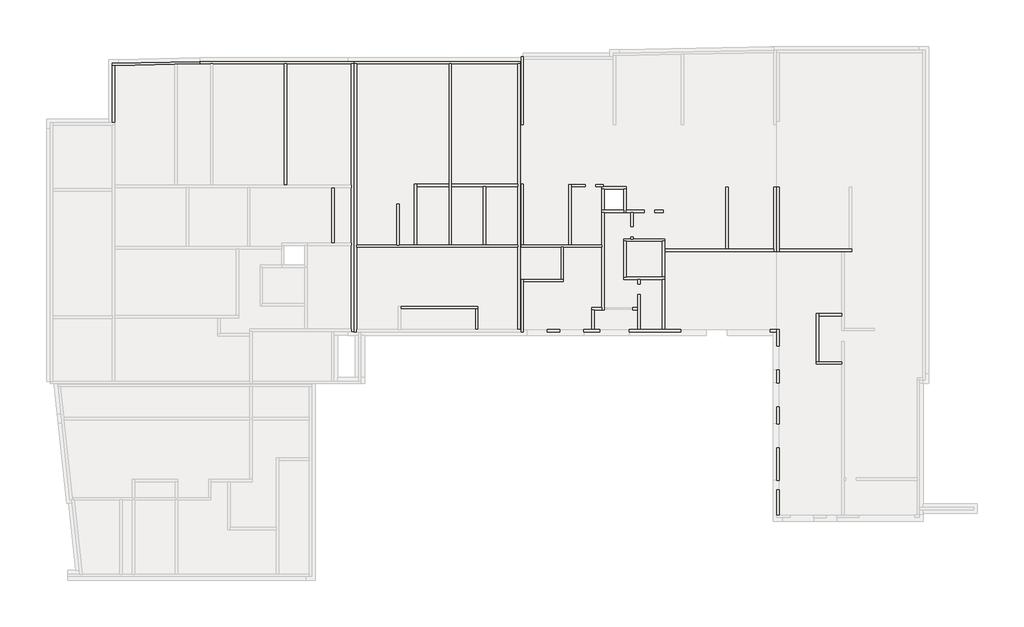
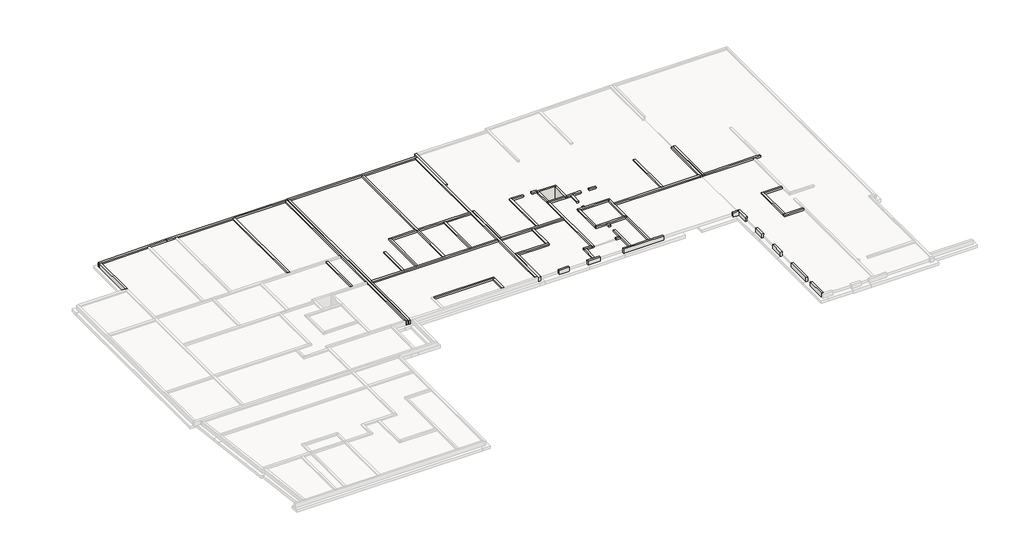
# One storey, part 2 of 5: 62 walls.
"""IFC4 building model written with IfcOpenShell, lengths in millimetres."""

from ifc_helpers import new_model, si_unit, frame, origin, place, context, project, spatial, polyline, outline, extrude, faceted_brep, element, save

model = new_model("IFC4")

# Units and contexts
model_context = context("Model", 3, world=origin())
ifc_project = project(units=[si_unit("LENGTHUNIT", "METRE", prefix="MILLI")], contexts=[model_context])

# Site, building, storey
site = spatial("IfcSite", under=ifc_project)
building = spatial("IfcBuilding", under=site)
storey = spatial("IfcBuildingStorey", under=building, Name="Base Mur soubassement", Elevation=-480.0)

# Walls
placement = place(None, origin())
element("IfcWall", 1, ObjectType="Ext. Voile BA 20", at=placement, inside=storey, context=model_context, shape_type="SweptSolid", body=[
    extrude(outline(polyline([(47687.6540405, 18465.2923443), (47687.6540405, 18865.2786309), (47887.6540405, 18865.2786309), (47887.6540405, 18465.2923443), (47687.6540405, 18465.2923443)])), frame((0.0, 0.0, -480.0), z_axis=(0.0, 0.0, 1.0), x_axis=(1.0, 0.0, 0.0)), (0.0, 0.0, 1.0), 480.0),
])
element("IfcWall", 2, ObjectType="Ext. Voile BA 20", at=placement, inside=storey, context=model_context, shape_type="Brep", body=[
    faceted_brep([(38068.6597873, 18684.2379364, -480.0), (41428.6220947, 18684.2379364, -480.0), (41428.6220947, 18684.2379364, 0.0), (38068.6597873, 18684.2379364, 0.0), (38068.6597873, 18884.2379364, -480.0), (38068.6597873, 18884.2379364, 0.0), (41228.6220947, 18884.2379364, 0.0), (41428.6220947, 18884.2379364, 0.0), (41428.6220947, 18884.2379364, -480.0), (41228.6220947, 18884.2379364, -480.0)], [[[0, 1, 2, 3]], [[4, 5, 6, 7, 8, 9]], [[1, 0, 4, 9, 8]], [[3, 2, 7, 6, 5]], [[0, 3, 5, 4]], [[2, 1, 8, 7]]]),
])
element("IfcWall", 3, ObjectType="Ext. Voile BA 20", at=placement, inside=storey, context=model_context, shape_type="SweptSolid", body=[
    extrude(outline(polyline([(47287.0291518, 22428.2705469), (47287.0291518, 22282.4542325), (47087.0291518, 22282.4542325), (47087.0291518, 22428.2705469), (47287.0291518, 22428.2705469)])), frame((0.0, 0.0, -480.0), z_axis=(0.0, 0.0, 1.0), x_axis=(1.0, 0.0, 0.0)), (0.0, 0.0, 1.0), 480.0),
])
element("IfcWall", 4, ObjectType="Ext. Voile BA 20", at=placement, inside=storey, context=model_context, shape_type="Brep", body=[
    faceted_brep([(49924.9149229, 21222.6249159, -480.0), (59092.1504559, 21222.6249159, -480.0), (59092.1504559, 21222.6249159, 0.0), (49924.9149229, 21222.6249159, 0.0), (49924.9149229, 21422.6249159, -480.0), (49924.9149229, 21422.6249159, 0.0), (55055.0439194, 21422.6249159, 0.0), (55255.0439194, 21422.6249159, 0.0), (59092.1504559, 21422.6249159, 0.0), (59092.1504559, 21422.6249159, -480.0), (55255.0439194, 21422.6249159, -480.0), (55055.0439194, 21422.6249159, -480.0)], [[[0, 1, 2, 3]], [[4, 5, 6, 7, 8, 9, 10, 11]], [[1, 0, 4, 11, 10, 9]], [[2, 1, 9, 8]], [[3, 2, 8, 7, 6, 5]], [[0, 3, 5, 4]]]),
])
element("IfcWall", 5, ObjectType="Ext. Voile BA 20", at=placement, inside=storey, context=model_context, shape_type="Brep", body=[
    faceted_brep([(59552.3933514, 21222.6249159, -480.0), (64812.3933514, 21222.6249159, -480.0), (65012.3933514, 21222.6249159, -480.0), (65613.8694348, 21222.6249159, -480.0), (65613.8694348, 21222.6249159, 0.0), (65012.3933514, 21222.6249159, 0.0), (64812.3933514, 21222.6249159, 0.0), (59552.3933514, 21222.6249159, 0.0), (59552.3933514, 21422.6249159, -480.0), (59552.3933514, 21422.6249159, 0.0), (65413.8694348, 21422.6249159, 0.0), (65613.8694348, 21422.6249159, 0.0), (65613.8694348, 21422.6249159, -480.0), (65413.8694348, 21422.6249159, -480.0)], [[[0, 1, 2, 3, 4, 5, 6, 7]], [[8, 9, 10, 11, 12, 13]], [[3, 2, 1, 0, 8, 13, 12]], [[7, 6, 5, 4, 11, 10, 9]], [[0, 7, 9, 8]], [[4, 3, 12, 11]]]),
])
element("IfcWall", 6, ObjectType="Ext. Voile BA 20", at=placement, inside=storey, context=model_context, shape_type="Brep", body=[
    faceted_brep([(64813.2256523, 11949.233281, -480.0), (62872.0019144, 11949.233281, -480.0), (62672.0019144, 11949.233281, -480.0), (62672.0019144, 11949.233281, 0.0), (62872.0019144, 11949.233281, 0.0), (64813.2256523, 11949.233281, 0.0), (64813.2256523, 11749.233281, -480.0), (64813.2256523, 11749.233281, 0.0), (62672.0019144, 11749.233281, 0.0), (62672.0019144, 11749.233281, -480.0)], [[[0, 1, 2, 3, 4, 5]], [[6, 7, 8, 9]], [[2, 1, 0, 6, 9]], [[5, 4, 3, 8, 7]], [[0, 5, 7, 6]], [[3, 2, 9, 8]]]),
])
element("IfcWall", 7, ObjectType="Ext. Voile BA 20", at=placement, inside=storey, context=model_context, shape_type="SweptSolid", body=[
    extrude(outline(polyline([(64812.3933514, 15804.7371374), (62872.0019144, 15804.7371374), (62872.0019144, 16004.7371374), (64812.3933514, 16004.7371374), (64812.3933514, 15804.7371374)])), frame((0.0, 0.0, -480.0), z_axis=(0.0, 0.0, 1.0), x_axis=(1.0, 0.0, 0.0)), (0.0, 0.0, 1.0), 480.0),
])
element("IfcWall", 8, ObjectType="Voile BA 20", at=placement, inside=storey, context=model_context, shape_type="Brep", body=[
    faceted_brep([(44657.2462422, 24500.9913711, -480.0), (44657.2462422, 21772.4500352, -480.0), (44657.2462422, 21572.4500352, -480.0), (44657.2462422, 16502.6881549, -480.0), (44657.2462422, 16302.6881549, -480.0), (44657.2462422, 16302.6881549, 0.0), (44657.2462422, 16502.6881549, 0.0), (44657.2462422, 21572.4500352, 0.0), (44657.2462422, 21772.4500352, 0.0), (44657.2462422, 24500.9913711, 0.0), (44857.2462422, 24500.9913711, -480.0), (44857.2462422, 24500.9913711, 0.0), (44857.2462422, 16302.6881549, 0.0), (44857.2462422, 16302.6881549, -480.0)], [[[0, 1, 2, 3, 4, 5, 6, 7, 8, 9]], [[10, 11, 12, 13]], [[4, 3, 2, 1, 0, 10, 13]], [[9, 8, 7, 6, 5, 12, 11]], [[5, 4, 13, 12]], [[0, 9, 11, 10]]]),
])
element("IfcWall", 9, ObjectType="Voile BA 20", at=placement, inside=storey, context=model_context, shape_type="Brep", body=[
    faceted_brep([(44657.2462422, 26457.7796483, -1400.0), (44857.2462422, 26457.7796483, -1400.0), (46507.3903862, 26457.7796483, -1400.0), (46707.3903862, 26457.7796483, -1400.0), (46707.3903862, 26457.7796483, 0.0), (46507.3903862, 26457.7796483, 0.0), (44857.2462422, 26457.7796483, 0.0), (44657.2462422, 26457.7796483, 0.0), (44657.2462422, 26657.7796483, -1400.0), (44657.2462422, 26657.7796483, 0.0), (46707.3903862, 26657.7796483, 0.0), (46707.3903862, 26657.7796483, -1400.0)], [[[0, 1, 2, 3, 4, 5, 6, 7]], [[8, 9, 10, 11]], [[3, 2, 1, 0, 8, 11]], [[7, 6, 5, 4, 10, 9]], [[4, 3, 11, 10]], [[0, 7, 9, 8]]]),
])
element("IfcWall", 10, ObjectType="Voile BA 20", at=placement, inside=storey, context=model_context, shape_type="Brep", body=[
    faceted_brep([(46507.3903862, 26457.7796483, -1400.0), (46507.3903862, 24500.9913711, -1400.0), (46507.3903862, 24500.9913711, -1380.0), (46507.3903862, 24500.9913711, 0.0), (46507.3903862, 24700.9913711, 0.0), (46507.3903862, 26457.7796483, 0.0), (46707.3903862, 26457.7796483, -1400.0), (46707.3903862, 26457.7796483, 0.0), (46707.3903862, 24700.9913711, 0.0), (46707.3903862, 24500.9913711, 0.0), (46707.3903862, 24500.9913711, -480.0), (46707.3903862, 24500.9913711, -1400.0)], [[[0, 1, 2, 3, 4, 5]], [[6, 7, 8, 9, 10, 11]], [[1, 0, 6, 11]], [[5, 4, 3, 9, 8, 7]], [[0, 5, 7, 6]], [[1, 11, 10, 9, 3, 2]]]),
])
element("IfcWall", 11, ObjectType="Voile BA 20", at=placement, inside=storey, context=model_context, shape_type="Brep", body=[
    faceted_brep([(46707.3903862, 24500.9913711, -480.0), (47077.0291518, 24500.9913711, -480.0), (47277.0291518, 24500.9913711, -480.0), (48207.3903862, 24500.9913711, -480.0), (48207.3903862, 24500.9913711, 0.0), (47277.0291518, 24500.9913711, 0.0), (47077.0291518, 24500.9913711, 0.0), (46707.3903862, 24500.9913711, 0.0), (46707.3903862, 24700.9913711, -480.0), (46707.3903862, 24700.9913711, 0.0), (48207.3903862, 24700.9913711, 0.0), (48207.3903862, 24700.9913711, -480.0)], [[[0, 1, 2, 3, 4, 5, 6, 7]], [[8, 9, 10, 11]], [[3, 2, 1, 0, 8, 11]], [[4, 3, 11, 10]], [[7, 6, 5, 4, 10, 9]], [[0, 7, 9, 8]]]),
])
element("IfcWall", 12, ObjectType="Voile BA 20", at=placement, inside=storey, context=model_context, shape_type="SweptSolid", body=[
    extrude(outline(polyline([(47277.0291518, 24500.9913711), (47277.0291518, 23318.2705469), (47077.0291518, 23318.2705469), (47077.0291518, 24500.9913711), (47277.0291518, 24500.9913711)])), frame((0.0, 0.0, -480.0), z_axis=(0.0, 0.0, 1.0), x_axis=(1.0, 0.0, 0.0)), (0.0, 0.0, 1.0), 480.0),
])
element("IfcWall", 13, ObjectType="Voile BA 20", at=placement, inside=storey, context=model_context, shape_type="Brep", body=[
    faceted_brep([(51269.4790947, 14657.8380717, -480.0), (49924.9149229, 14657.8380717, -480.0), (49724.9149229, 14657.8380717, -480.0), (47887.6540405, 14657.8380717, -480.0), (47687.6540405, 14657.8380717, -480.0), (46971.20252, 14657.8380717, -480.0), (46971.20252, 14657.8380717, 0.0), (47687.6540405, 14657.8380717, 0.0), (47887.6540405, 14657.8380717, 0.0), (49724.9149229, 14657.8380717, 0.0), (49924.9149229, 14657.8380717, 0.0), (51269.4790947, 14657.8380717, 0.0), (51269.4790947, 14457.8380717, -480.0), (51269.4790947, 14457.8380717, 0.0), (46971.20252, 14457.8380717, 0.0), (46971.20252, 14457.8380717, -480.0)], [[[0, 1, 2, 3, 4, 5, 6, 7, 8, 9, 10, 11]], [[12, 13, 14, 15]], [[5, 4, 3, 2, 1, 0, 12, 15]], [[6, 5, 15, 14]], [[11, 10, 9, 8, 7, 6, 14, 13]], [[0, 11, 13, 12]]]),
])
element("IfcWall", 14, ObjectType="Voile BA 20", at=placement, inside=storey, context=model_context, shape_type="Brep", body=[
    faceted_brep([(49924.9149229, 19065.2786309, -480.0), (49724.9149229, 19065.2786309, -480.0), (46711.356287, 19065.2786309, -480.0), (46511.356287, 19065.2786309, -480.0), (46511.356287, 19065.2786309, 0.0), (46711.356287, 19065.2786309, 0.0), (49724.9149229, 19065.2786309, 0.0), (49924.9149229, 19065.2786309, 0.0), (49924.9149229, 18865.2786309, -480.0), (49924.9149229, 18865.2786309, 0.0), (49724.9149229, 18865.2786309, 0.0), (47887.6540405, 18865.2786309, 0.0), (47687.6540405, 18865.2786309, 0.0), (46511.356287, 18865.2786309, 0.0), (46511.356287, 18865.2786309, -480.0), (47687.6540405, 18865.2786309, -480.0), (47887.6540405, 18865.2786309, -480.0), (49724.9149229, 18865.2786309, -480.0)], [[[0, 1, 2, 3, 4, 5, 6, 7]], [[8, 9, 10, 11, 12, 13, 14, 15, 16, 17]], [[3, 2, 1, 0, 8, 17, 16, 15, 14]], [[7, 6, 5, 4, 13, 12, 11, 10, 9]], [[4, 3, 14, 13]], [[0, 7, 9, 8]]]),
])
element("IfcWall", 15, ObjectType="Voile BA 20", at=placement, inside=storey, context=model_context, shape_type="Brep", body=[
    faceted_brep([(47687.6540405, 17610.1585602, -480.0), (47687.6540405, 16502.6881549, -480.0), (47687.6540405, 16302.6881549, -480.0), (47687.6540405, 14657.8380717, -480.0), (47687.6540405, 14657.8380717, 0.0), (47687.6540405, 16302.6881549, 0.0), (47687.6540405, 16502.6881549, 0.0), (47687.6540405, 17610.1585602, 0.0), (47887.6540405, 17610.1585602, -480.0), (47887.6540405, 17610.1585602, 0.0), (47887.6540405, 14657.8380717, 0.0), (47887.6540405, 14657.8380717, -480.0)], [[[0, 1, 2, 3, 4, 5, 6, 7]], [[8, 9, 10, 11]], [[3, 2, 1, 0, 8, 11]], [[7, 6, 5, 4, 10, 9]], [[0, 7, 9, 8]], [[4, 3, 11, 10]]]),
])
element("IfcWall", 16, ObjectType="Voile BA 20", at=placement, inside=storey, context=model_context, shape_type="Brep", body=[
    faceted_brep([(43797.5546594, 16302.6881549, -480.0), (43997.5546594, 16302.6881549, -480.0), (44657.2462422, 16302.6881549, -480.0), (44657.2462422, 16302.6881549, 0.0), (43997.5546594, 16302.6881549, 0.0), (43797.5546594, 16302.6881549, 0.0), (43797.5546594, 16502.6881549, -480.0), (43797.5546594, 16502.6881549, 0.0), (44657.2462422, 16502.6881549, 0.0), (44657.2462422, 16502.6881549, -480.0)], [[[0, 1, 2, 3, 4, 5]], [[6, 7, 8, 9]], [[2, 1, 0, 6, 9]], [[5, 4, 3, 8, 7]], [[3, 2, 9, 8]], [[0, 5, 7, 6]]]),
])
element("IfcWall", 17, ObjectType="Voile BA 20", at=placement, inside=storey, context=model_context, shape_type="SweptSolid", body=[
    extrude(outline(polyline([(47267.6540405, 16502.6881549), (47687.6540405, 16502.6881549), (47687.6540405, 16302.6881549), (47267.6540405, 16302.6881549), (47267.6540405, 16502.6881549)])), frame((0.0, 0.0, -480.0), z_axis=(0.0, 0.0, 1.0), x_axis=(1.0, 0.0, 0.0)), (0.0, 0.0, 1.0), 480.0),
])
element("IfcWall", 18, ObjectType="Voile BA 20", at=placement, inside=storey, context=model_context, shape_type="SweptSolid", body=[
    extrude(outline(polyline([(43997.5546594, 16302.6881549), (43997.5546594, 14662.1405969), (43797.5546594, 14662.1405969), (43797.5546594, 16302.6881549), (43997.5546594, 16302.6881549)])), frame((0.0, 0.0, -480.0), z_axis=(0.0, 0.0, 1.0), x_axis=(1.0, 0.0, 0.0)), (0.0, 0.0, 1.0), 480.0),
])
element("IfcWall", 19, ObjectType="Voile BA 20", at=placement, inside=storey, context=model_context, shape_type="Brep", body=[
    faceted_brep([(44475.9645277, 14662.1405969, -480.0), (43997.5546594, 14662.1405969, -480.0), (43797.5546594, 14662.1405969, -480.0), (43150.9645277, 14662.1405969, -480.0), (43150.9645277, 14662.1405969, 0.0), (43797.5546594, 14662.1405969, 0.0), (43997.5546594, 14662.1405969, 0.0), (44475.9645277, 14662.1405969, 0.0), (44475.9645277, 14462.1405969, -480.0), (44475.9645277, 14462.1405969, 0.0), (43150.9645277, 14462.1405969, 0.0), (43150.9645277, 14462.1405969, -480.0)], [[[0, 1, 2, 3, 4, 5, 6, 7]], [[8, 9, 10, 11]], [[3, 2, 1, 0, 8, 11]], [[4, 3, 11, 10]], [[7, 6, 5, 4, 10, 9]], [[0, 7, 9, 8]]]),
])
element("IfcWall", 20, ObjectType="Voile BA 20", at=placement, inside=storey, context=model_context, shape_type="SweptSolid", body=[
    extrude(outline(polyline([(41137.5546594, 14462.6998135), (40078.7313075, 14462.6998135), (40078.7313075, 14662.6998135), (41137.5546594, 14662.6998135), (41137.5546594, 14462.6998135)])), frame((0.0, 0.0, -480.0), z_axis=(0.0, 0.0, 1.0), x_axis=(1.0, 0.0, 0.0)), (0.0, 0.0, 1.0), 480.0),
])
element("IfcWall", 21, ObjectType="Voile BA 20", at=placement, inside=storey, context=model_context, shape_type="Brep", body=[
    faceted_brep([(38068.6597873, 14457.8380721, -480.0), (38068.6597873, 18684.2379364, -480.0), (38068.6597873, 18884.2379364, -480.0), (38068.6597873, 18884.2379364, 0.0), (38068.6597873, 18684.2379364, 0.0), (38068.6597873, 14457.8380721, 0.0), (37868.6597873, 14457.8380721, -480.0), (37868.6597873, 14457.8380721, 0.0), (37868.6597873, 18884.2379364, 0.0), (37868.6597873, 18884.2379364, -480.0)], [[[0, 1, 2, 3, 4, 5]], [[6, 7, 8, 9]], [[2, 1, 0, 6, 9]], [[5, 4, 3, 8, 7]], [[0, 5, 7, 6]], [[3, 2, 9, 8]]]),
])
element("IfcWall", 22, ObjectType="Voile BA 20", at=placement, inside=storey, context=model_context, shape_type="SweptSolid", body=[
    extrude(outline(polyline([(41428.6220947, 21572.4500352), (41428.6220947, 18884.2379364), (41228.6220947, 18884.2379364), (41228.6220947, 21572.4500352), (41428.6220947, 21572.4500352)])), frame((0.0, 0.0, -480.0), z_axis=(0.0, 0.0, 1.0), x_axis=(1.0, 0.0, 0.0)), (0.0, 0.0, 1.0), 480.0),
])
element("IfcWall", 23, ObjectType="Voile BA 20", at=placement, inside=storey, context=model_context, shape_type="Brep", body=[
    faceted_brep([(44657.2462422, 21772.4500352, -480.0), (42066.5033212, 21772.4500352, -480.0), (41866.5033212, 21772.4500352, -480.0), (38068.7313075, 21772.4500352, -480.0), (37868.7313075, 21772.4500352, -480.0), (37868.7313075, 21772.4500352, 0.0), (38068.7313075, 21772.4500352, 0.0), (41866.5033212, 21772.4500352, 0.0), (42066.5033212, 21772.4500352, 0.0), (44657.2462422, 21772.4500352, 0.0), (44657.2462422, 21572.4500352, -480.0), (44657.2462422, 21572.4500352, 0.0), (41428.6220947, 21572.4500352, 0.0), (41228.6220947, 21572.4500352, 0.0), (37868.7313075, 21572.4500352, 0.0), (37868.7313075, 21572.4500352, -480.0), (41228.6220947, 21572.4500352, -480.0), (41428.6220947, 21572.4500352, -480.0)], [[[0, 1, 2, 3, 4, 5, 6, 7, 8, 9]], [[10, 11, 12, 13, 14, 15, 16, 17]], [[4, 3, 2, 1, 0, 10, 17, 16, 15]], [[9, 8, 7, 6, 5, 14, 13, 12, 11]], [[0, 9, 11, 10]], [[5, 4, 15, 14]]]),
])
element("IfcWall", 24, ObjectType="Voile BA 20", at=placement, inside=storey, context=model_context, shape_type="SweptSolid", body=[
    extrude(outline(polyline([(38068.7313075, 26872.4500352), (38068.7313075, 21772.4500352), (37868.7313075, 21772.4500352), (37868.7313075, 26872.4500352), (38068.7313075, 26872.4500352)])), frame((0.0, 0.0, -480.0), z_axis=(0.0, 0.0, 1.0), x_axis=(1.0, 0.0, 0.0)), (0.0, 0.0, 1.0), 480.0),
])
element("IfcWall", 25, ObjectType="Voile BA 20", at=placement, inside=storey, context=model_context, shape_type="Brep", body=[
    faceted_brep([(42066.5033212, 21772.4500352, -480.0), (42066.5033212, 26657.8817009, -480.0), (42066.5033212, 26857.8817009, -480.0), (42066.5033212, 26857.8817009, 0.0), (42066.5033212, 26657.8817009, 0.0), (42066.5033212, 21772.4500352, 0.0), (41866.5033212, 21772.4500352, -480.0), (41866.5033212, 21772.4500352, 0.0), (41866.5033212, 26857.8817009, 0.0), (41866.5033212, 26857.8817009, -480.0)], [[[0, 1, 2, 3, 4, 5]], [[6, 7, 8, 9]], [[2, 1, 0, 6, 9]], [[5, 4, 3, 8, 7]], [[0, 5, 7, 6]], [[3, 2, 9, 8]]]),
])
element("IfcWall", 26, ObjectType="Voile BA 20", at=placement, inside=storey, context=model_context, shape_type="SweptSolid", body=[
    extrude(outline(polyline([(43272.2576695, 26657.8817009), (42066.5033212, 26657.8817009), (42066.5033212, 26857.8817009), (43272.2576695, 26857.8817009), (43272.2576695, 26657.8817009)])), frame((0.0, 0.0, -480.0), z_axis=(0.0, 0.0, 1.0), x_axis=(1.0, 0.0, 0.0)), (0.0, 0.0, 1.0), 480.0),
])
element("IfcWall", 27, ObjectType="Voile BA 20", at=placement, inside=storey, context=model_context, shape_type="SweptSolid", body=[
    extrude(outline(polyline([(44757.2462422, 26657.8817009), (44162.2590145, 26657.8817009), (44162.2590145, 26857.8817009), (44757.2462422, 26857.8817009), (44757.2462422, 26657.8817009)])), frame((0.0, 0.0, -480.0), z_axis=(0.0, 0.0, 1.0), x_axis=(1.0, 0.0, 0.0)), (0.0, 0.0, 1.0), 480.0),
])
element("IfcWall", 28, ObjectType="Voile BA 20", at=placement, inside=storey, context=model_context, shape_type="Brep", body=[
    faceted_brep([(49924.9149229, 22282.4542325, -480.0), (47287.0291518, 22282.4542325, -480.0), (47087.0291518, 22282.4542325, -480.0), (46511.356287, 22282.4542325, -480.0), (46511.356287, 22282.4542325, 0.0), (47087.0291518, 22282.4542325, 0.0), (47287.0291518, 22282.4542325, 0.0), (49924.9149229, 22282.4542325, 0.0), (49924.9149229, 22082.4542325, -480.0), (49924.9149229, 22082.4542325, 0.0), (49724.9149229, 22082.4542325, 0.0), (46711.356287, 22082.4542325, 0.0), (46511.356287, 22082.4542325, 0.0), (46511.356287, 22082.4542325, -480.0), (46711.356287, 22082.4542325, -480.0), (49724.9149229, 22082.4542325, -480.0)], [[[0, 1, 2, 3, 4, 5, 6, 7]], [[8, 9, 10, 11, 12, 13, 14, 15]], [[3, 2, 1, 0, 8, 15, 14, 13]], [[7, 6, 5, 4, 12, 11, 10, 9]], [[4, 3, 13, 12]], [[0, 7, 9, 8]]]),
])
element("IfcWall", 29, ObjectType="Voile BA 20", at=placement, inside=storey, context=model_context, shape_type="SweptSolid", body=[
    extrude(outline(polyline([(46511.356287, 19065.2786309), (46511.356287, 22082.4542325), (46711.356287, 22082.4542325), (46711.356287, 19065.2786309), (46511.356287, 19065.2786309)])), frame((0.0, 0.0, -480.0), z_axis=(0.0, 0.0, 1.0), x_axis=(1.0, 0.0, 0.0)), (0.0, 0.0, 1.0), 480.0),
])
element("IfcWall", 30, ObjectType="Voile BA 20", at=placement, inside=storey, context=model_context, shape_type="SweptSolid", body=[
    extrude(outline(polyline([(59292.2183923, 26622.6223725), (59292.2183923, 21216.7108088), (59092.2183923, 21216.7108088), (59092.2183923, 26622.6223725), (59292.2183923, 26622.6223725)])), frame((0.0, 0.0, -480.0), z_axis=(0.0, 0.0, 1.0), x_axis=(1.0, 0.0, 0.0)), (0.0, 0.0, 1.0), 480.0),
])
element("IfcWall", 31, ObjectType="Voile BA 20", at=placement, inside=storey, context=model_context, shape_type="SweptSolid", body=[
    extrude(outline(polyline([(55055.0439194, 21422.6249159), (55055.0439194, 26622.6237041), (55255.0439194, 26622.6237041), (55255.0439194, 21422.6249159), (55055.0439194, 21422.6249159)])), frame((0.0, 0.0, -480.0), z_axis=(0.0, 0.0, 1.0), x_axis=(1.0, 0.0, 0.0)), (0.0, 0.0, 1.0), 480.0),
])
element("IfcWall", 32, ObjectType="Voile BA 20", at=placement, inside=storey, context=model_context, shape_type="SweptSolid", body=[
    extrude(outline(polyline([(49924.9149229, 18865.2786309), (49924.9149229, 14657.8380717), (49724.9149229, 14657.8380717), (49724.9149229, 18865.2786309), (49924.9149229, 18865.2786309)])), frame((0.0, 0.0, -480.0), z_axis=(0.0, 0.0, 1.0), x_axis=(1.0, 0.0, 0.0)), (0.0, 0.0, 1.0), 480.0),
])
element("IfcWall", 33, ObjectType="Voile BA 20", at=placement, inside=storey, context=model_context, shape_type="SweptSolid", body=[
    extrude(outline(polyline([(49092.5494774, 24700.9913711), (49824.9149229, 24700.9913711), (49824.9149229, 24500.9913711), (49092.5494774, 24500.9913711), (49092.5494774, 24700.9913711)])), frame((0.0, 0.0, -480.0), z_axis=(0.0, 0.0, 1.0), x_axis=(1.0, 0.0, 0.0)), (0.0, 0.0, 1.0), 480.0),
])
element("IfcWall", 34, ObjectType="Voile BA 20", at=placement, inside=storey, context=model_context, shape_type="Brep", body=[
    faceted_brep([(59352.3933514, 26622.6223725, -480.0), (59352.3933514, 21222.6249159, -480.0), (59352.3933514, 21222.6249159, 0.0), (59352.3933514, 26622.6223725, 0.0), (59552.3933514, 26622.6223725, -480.0), (59552.3933514, 26622.6223725, 0.0), (59552.3933514, 21422.6249159, 0.0), (59552.3933514, 21222.6249159, 0.0), (59552.3933514, 21222.6249159, -480.0), (59552.3933514, 21422.6249159, -480.0)], [[[0, 1, 2, 3]], [[4, 5, 6, 7, 8, 9]], [[1, 0, 4, 9, 8]], [[3, 2, 7, 6, 5]], [[0, 3, 5, 4]], [[2, 1, 8, 7]]]),
])
element("IfcWall", 35, ObjectType="Voile BA 20", at=placement, inside=storey, context=model_context, shape_type="Brep", body=[
    faceted_brep([(38068.6597873, 31857.8992856, -480.0), (38068.6597873, 37380.5992191, -480.0), (38068.6597873, 37580.5992191, -480.0), (38068.6597873, 37580.5992191, 0.0), (38068.6597873, 37380.5992191, 0.0), (38068.6597873, 31857.8992856, 0.0), (37868.6597873, 31857.8992856, -480.0), (37868.6597873, 31857.8992856, 0.0), (37868.6597873, 37580.5992191, 0.0), (37868.6597873, 37580.5992191, -480.0)], [[[0, 1, 2, 3, 4, 5]], [[6, 7, 8, 9]], [[2, 1, 0, 6, 9]], [[5, 4, 3, 8, 7]], [[0, 5, 7, 6]], [[3, 2, 9, 8]]]),
])
element("IfcWall", 36, ObjectType="Voile BA 20", at=placement, inside=storey, context=model_context, shape_type="Brep", body=[
    faceted_brep([(62872.0019144, 11949.233281, -480.0), (62872.0019144, 15804.7371374, -480.0), (62872.0019144, 16004.7371374, -480.0), (62872.0019144, 16004.7371374, 0.0), (62872.0019144, 15804.7371374, 0.0), (62872.0019144, 11949.233281, 0.0), (62672.0019144, 11949.233281, -480.0), (62672.0019144, 11949.233281, 0.0), (62672.0019144, 16004.7371374, 0.0), (62672.0019144, 16004.7371374, -480.0)], [[[0, 1, 2, 3, 4, 5]], [[6, 7, 8, 9]], [[2, 1, 0, 6, 9]], [[5, 4, 3, 8, 7]], [[0, 5, 7, 6]], [[3, 2, 9, 8]]]),
])
element("IfcWall", 37, ObjectType="Voile BA 20", at=placement, inside=storey, context=model_context, shape_type="SweptSolid", body=[
    extrude(outline(polyline([(59552.8933514, 1179.659023), (59552.8933514, -933.5235574), (59352.8933514, -933.5235574), (59352.8933514, 1179.659023), (59552.8933514, 1179.659023)])), frame((0.0, 0.0, -480.0), z_axis=(0.0, 0.0, 1.0), x_axis=(1.0, 0.0, 0.0)), (0.0, 0.0, 1.0), 480.0),
])
element("IfcWall", 38, ObjectType="Voile BA 20", at=placement, inside=storey, context=model_context, shape_type="SweptSolid", body=[
    extrude(outline(polyline([(59553.8975177, 4727.955072), (59553.8975177, 1982.6881549), (59353.8975177, 1982.6881549), (59353.8975177, 4727.955072), (59553.8975177, 4727.955072)])), frame((0.0, 0.0, -480.0), z_axis=(0.0, 0.0, 1.0), x_axis=(1.0, 0.0, 0.0)), (0.0, 0.0, 1.0), 480.0),
])
element("IfcWall", 39, ObjectType="Voile BA 20", at=placement, inside=storey, context=model_context, shape_type="SweptSolid", body=[
    extrude(outline(polyline([(59553.8975177, 8167.955072), (59553.8975177, 6727.955072), (59353.8975177, 6727.955072), (59353.8975177, 8167.955072), (59553.8975177, 8167.955072)])), frame((0.0, 0.0, -480.0), z_axis=(0.0, 0.0, 1.0), x_axis=(1.0, 0.0, 0.0)), (0.0, 0.0, 1.0), 480.0),
])
element("IfcWall", 40, ObjectType="Voile BA 20", at=placement, inside=storey, context=model_context, shape_type="SweptSolid", body=[
    extrude(outline(polyline([(59552.9134361, 11276.7065018), (59552.9134361, 10176.7065018), (59352.9134361, 10176.7065018), (59352.9134361, 11276.7065018), (59552.9134361, 11276.7065018)])), frame((0.0, 0.0, -480.0), z_axis=(0.0, 0.0, 1.0), x_axis=(1.0, 0.0, 0.0)), (0.0, 0.0, 1.0), 480.0),
])
element("IfcWall", 41, ObjectType="Voile BA 20", at=placement, inside=storey, context=model_context, shape_type="Brep", body=[
    faceted_brep([(59553.8975177, 13280.5941452, -480.0), (59553.8975177, 14660.5941452, -480.0), (59553.8975177, 14660.5941452, 0.0), (59553.8975177, 13280.5941452, 0.0), (59353.8975177, 13280.5941452, -480.0), (59353.8975177, 13280.5941452, 0.0), (59353.8975177, 14457.8380715, 0.0), (59353.8975177, 14657.8380715, 0.0), (59353.8975177, 14660.5941452, 0.0), (59353.8975177, 14660.5941452, -480.0), (59353.8975177, 14657.8380715, -480.0), (59353.8975177, 14457.8380715, -480.0)], [[[0, 1, 2, 3]], [[4, 5, 6, 7, 8, 9, 10, 11]], [[1, 0, 4, 11, 10, 9]], [[2, 1, 9, 8]], [[3, 2, 8, 7, 6, 5]], [[0, 3, 5, 4]]]),
])
element("IfcWall", 42, ObjectType="Voile BA 20", at=placement, inside=storey, context=model_context, shape_type="SweptSolid", body=[
    extrude(outline(polyline([(58772.0817174, 14657.8380715), (59353.8975177, 14657.8380715), (59353.8975177, 14457.8380715), (58772.0817174, 14457.8380715), (58772.0817174, 14657.8380715)])), frame((0.0, 0.0, -480.0), z_axis=(0.0, 0.0, 1.0), x_axis=(1.0, 0.0, 0.0)), (0.0, 0.0, 1.0), 480.0),
])
element("IfcWall", 43, ObjectType="Voile BA 20", at=placement, inside=storey, context=model_context, shape_type="Brep", body=[
    faceted_brep([(3556.9078335, 36836.1925228, -480.0), (3756.9078335, 36840.1745184, -480.0), (8817.5794193, 36940.9323768, -480.0), (9017.5794193, 36944.9143723, -480.0), (10900.7349098, 36982.4079561, -480.0), (10900.7349098, 36982.4079561, 0.0), (9017.5794193, 36944.9143723, 0.0), (8817.5794193, 36940.9323768, 0.0), (3756.9078335, 36840.1745184, 0.0), (3556.9078335, 36836.1925228, 0.0), (3556.9078335, 37036.2321596, -480.0), (3556.9078335, 37036.2321596, 0.0), (10898.7441093, 37182.4079561, 0.0), (10898.7441093, 37182.4079561, -480.0)], [[[0, 1, 2, 3, 4, 5, 6, 7, 8, 9]], [[10, 11, 12, 13]], [[4, 3, 2, 1, 0, 10, 13]], [[9, 8, 7, 6, 5, 12, 11]], [[5, 4, 13, 12]], [[0, 9, 11, 10]]]),
])
element("IfcWall", 44, ObjectType="Voile BA 20", at=placement, inside=storey, context=model_context, shape_type="Brep", body=[
    faceted_brep([(10900.7349098, 36982.4079561, -480.0), (11803.2656575, 36982.4079561, -480.0), (12003.2656575, 36982.4079561, -480.0), (17999.2548774, 36982.4079561, -480.0), (18199.2548774, 36982.4079561, -480.0), (23619.3814813, 36982.4079561, -480.0), (23819.3814813, 36982.4079561, -480.0), (23819.3814813, 36982.4079561, 0.0), (23619.3814813, 36982.4079561, 0.0), (18199.2548774, 36982.4079561, 0.0), (17999.2548774, 36982.4079561, 0.0), (12003.2656575, 36982.4079561, 0.0), (11803.2656575, 36982.4079561, 0.0), (10900.7349098, 36982.4079561, 0.0), (10898.7441094, 37182.4079561, -480.0), (10898.7441094, 37182.4079561, 0.0), (23819.3814813, 37182.4079561, 0.0), (23819.3814813, 37182.4079561, -480.0)], [[[0, 1, 2, 3, 4, 5, 6, 7, 8, 9, 10, 11, 12, 13]], [[14, 15, 16, 17]], [[6, 5, 4, 3, 2, 1, 0, 14, 17]], [[13, 12, 11, 10, 9, 8, 7, 16, 15]], [[0, 13, 15, 14]], [[7, 6, 17, 16]]]),
])
element("IfcWall", 45, ObjectType="Voile BA 20", at=placement, inside=storey, context=model_context, shape_type="Brep", body=[
    faceted_brep([(23619.3814813, 36982.4079561, -480.0), (23619.3814813, 26787.8872551, -480.0), (23619.3814813, 26587.8872551, -480.0), (23619.3814813, 21916.9971343, -480.0), (23619.3814813, 21716.9971343, -480.0), (23619.3814813, 14687.8380735, -480.0), (23619.3814813, 14487.8380735, -480.0), (23619.3814813, 14487.8380735, 0.0), (23619.3814813, 14687.8380735, 0.0), (23619.3814813, 21716.9971343, 0.0), (23619.3814813, 21916.9971343, 0.0), (23619.3814813, 26587.8872551, 0.0), (23619.3814813, 26787.8872551, 0.0), (23619.3814813, 36982.4079561, 0.0), (23819.3814813, 36982.4079561, -480.0), (23819.3814813, 36982.4079561, 0.0), (23819.3814813, 14487.8380735, 0.0), (23819.3814813, 14487.8380735, -480.0)], [[[0, 1, 2, 3, 4, 5, 6, 7, 8, 9, 10, 11, 12, 13]], [[14, 15, 16, 17]], [[6, 5, 4, 3, 2, 1, 0, 14, 17]], [[13, 12, 11, 10, 9, 8, 7, 16, 15]], [[0, 13, 15, 14]], [[7, 6, 17, 16]]]),
])
element("IfcWall", 46, ObjectType="Voile BA 20", at=placement, inside=storey, context=model_context, shape_type="SweptSolid", body=[
    extrude(outline(polyline([(3756.9078335, 36840.1745184), (3756.9078335, 32028.092309), (3556.9078335, 32028.092309), (3556.9078335, 36836.1925228), (3756.9078335, 36840.1745184)])), frame((0.0, 0.0, -480.0), z_axis=(0.0, 0.0, 1.0), x_axis=(1.0, 0.0, 0.0)), (0.0, 0.0, 1.0), 480.0),
])
element("IfcWall", 47, ObjectType="Voile BA 20", at=placement, inside=storey, context=model_context, shape_type="SweptSolid", body=[
    extrude(outline(polyline([(17999.2548774, 26787.8872551), (17999.2548774, 36982.4079561), (18199.2548774, 36982.4079561), (18199.2548774, 26787.8872551), (17999.2548774, 26787.8872551)])), frame((0.0, 0.0, -480.0), z_axis=(0.0, 0.0, 1.0), x_axis=(1.0, 0.0, 0.0)), (0.0, 0.0, 1.0), 480.0),
])
element("IfcWall", 48, ObjectType="Voile BA 20", at=placement, inside=storey, context=model_context, shape_type="SweptSolid", body=[
    extrude(outline(polyline([(21995.0786989, 21916.9971343), (21995.0786989, 26587.8872551), (22195.0786989, 26587.8872551), (22195.0786989, 21916.9971343), (21995.0786989, 21916.9971343)])), frame((0.0, 0.0, -480.0), z_axis=(0.0, 0.0, 1.0), x_axis=(1.0, 0.0, 0.0)), (0.0, 0.0, 1.0), 480.0),
])
element("IfcWall", 49, ObjectType="Voile BA 20", at=placement, inside=storey, context=model_context, shape_type="Brep", body=[
    faceted_brep([(23879.3002373, 36982.4079561, -480.0), (24079.3002373, 36982.4079561, -480.0), (31828.7587922, 36982.4079561, -480.0), (32028.7587922, 36982.4079561, -480.0), (37608.398272, 36982.4079561, -480.0), (37808.398272, 36982.4079561, -480.0), (37808.398272, 36982.4079561, 0.0), (37608.398272, 36982.4079561, 0.0), (32028.7587922, 36982.4079561, 0.0), (31828.7587922, 36982.4079561, 0.0), (24079.3002373, 36982.4079561, 0.0), (23879.3002373, 36982.4079561, 0.0), (23879.3002373, 37182.4079561, -480.0), (23879.3002373, 37182.4079561, 0.0), (37808.398272, 37182.4079561, 0.0), (37808.398272, 37182.4079561, -480.0)], [[[0, 1, 2, 3, 4, 5, 6, 7, 8, 9, 10, 11]], [[12, 13, 14, 15]], [[5, 4, 3, 2, 1, 0, 12, 15]], [[11, 10, 9, 8, 7, 6, 14, 13]], [[6, 5, 15, 14]], [[0, 11, 13, 12]]]),
])
element("IfcWall", 50, ObjectType="Voile BA 20", at=placement, inside=storey, context=model_context, shape_type="Brep", body=[
    faceted_brep([(37608.398272, 21773.8066571, -480.0), (34893.5365752, 21773.8066571, -480.0), (34693.5365752, 21773.8066571, -480.0), (32028.7587922, 21773.8066571, -480.0), (31828.7587922, 21773.8066571, -480.0), (29098.3646686, 21773.8066571, -480.0), (28898.3646686, 21773.8066571, -480.0), (27626.9896309, 21773.8066571, -480.0), (27426.9896309, 21773.8066571, -480.0), (24079.3002373, 21773.8066571, -480.0), (24079.3002373, 21773.8066571, 0.0), (27426.9896309, 21773.8066571, 0.0), (27626.9896309, 21773.8066571, 0.0), (28898.3646686, 21773.8066571, 0.0), (29098.3646686, 21773.8066571, 0.0), (31828.7587922, 21773.8066571, 0.0), (32028.7587922, 21773.8066571, 0.0), (34693.5365752, 21773.8066571, 0.0), (34893.5365752, 21773.8066571, 0.0), (37608.398272, 21773.8066571, 0.0), (37608.398272, 21573.8066571, -480.0), (37608.398272, 21573.8066571, 0.0), (24079.3002373, 21573.8066571, 0.0), (24079.3002373, 21573.8066571, -480.0)], [[[0, 1, 2, 3, 4, 5, 6, 7, 8, 9, 10, 11, 12, 13, 14, 15, 16, 17, 18, 19]], [[20, 21, 22, 23]], [[9, 8, 7, 6, 5, 4, 3, 2, 1, 0, 20, 23]], [[19, 18, 17, 16, 15, 14, 13, 12, 11, 10, 22, 21]], [[10, 9, 23, 22]], [[0, 19, 21, 20]]]),
])
element("IfcWall", 51, ObjectType="Voile BA 20", at=placement, inside=storey, context=model_context, shape_type="Brep", body=[
    faceted_brep([(23879.3002373, 36982.4079561, -480.0), (23879.3002373, 14464.3593187, -480.0), (23879.3002373, 14464.3593187, 0.0), (23879.3002373, 36982.4079561, 0.0), (24079.3002373, 36982.4079561, -480.0), (24079.3002373, 36982.4079561, 0.0), (24079.3002373, 21773.8066571, 0.0), (24079.3002373, 21573.8066571, 0.0), (24079.3002373, 14664.3593187, 0.0), (24079.3002373, 14464.3593187, 0.0), (24079.3002373, 14464.3593187, -480.0), (24079.3002373, 14664.3593187, -480.0), (24079.3002373, 21573.8066571, -480.0), (24079.3002373, 21773.8066571, -480.0)], [[[0, 1, 2, 3]], [[4, 5, 6, 7, 8, 9, 10, 11, 12, 13]], [[1, 0, 4, 13, 12, 11, 10]], [[3, 2, 9, 8, 7, 6, 5]], [[0, 3, 5, 4]], [[2, 1, 10, 9]]]),
])
element("IfcWall", 52, ObjectType="Voile BA 20", at=placement, inside=storey, context=model_context, shape_type="Brep", body=[
    faceted_brep([(37808.398272, 14664.3593187, -480.0), (37808.398272, 36982.4079561, -480.0), (37808.398272, 36982.4079561, 0.0), (37808.398272, 14664.3593187, 0.0), (37608.398272, 14664.3593187, -480.0), (37608.398272, 14664.3593187, 0.0), (37608.398272, 21573.8066571, 0.0), (37608.398272, 21773.8066571, 0.0), (37608.398272, 26672.4500352, 0.0), (37608.398272, 26872.4500352, 0.0), (37608.398272, 36982.4079561, 0.0), (37608.398272, 36982.4079561, -480.0), (37608.398272, 26872.4500352, -480.0), (37608.398272, 26672.4500352, -480.0), (37608.398272, 21773.8066571, -480.0), (37608.398272, 21573.8066571, -480.0)], [[[0, 1, 2, 3]], [[4, 5, 6, 7, 8, 9, 10, 11, 12, 13, 14, 15]], [[1, 0, 4, 15, 14, 13, 12, 11]], [[3, 2, 10, 9, 8, 7, 6, 5]], [[0, 3, 5, 4]], [[2, 1, 11, 10]]]),
])
element("IfcWall", 53, ObjectType="Voile BA 20", at=placement, inside=storey, context=model_context, shape_type="Brep", body=[
    faceted_brep([(31828.7587922, 36982.4079561, -480.0), (31828.7587922, 26872.4500352, -480.0), (31828.7587922, 26672.4500352, -480.0), (31828.7587922, 21773.8066571, -480.0), (31828.7587922, 21773.8066571, 0.0), (31828.7587922, 26672.4500352, 0.0), (31828.7587922, 26872.4500352, 0.0), (31828.7587922, 36982.4079561, 0.0), (32028.7587922, 36982.4079561, -480.0), (32028.7587922, 36982.4079561, 0.0), (32028.7587922, 26872.4500352, 0.0), (32028.7587922, 26672.4500352, 0.0), (32028.7587922, 21773.8066571, 0.0), (32028.7587922, 21773.8066571, -480.0), (32028.7587922, 26672.4500352, -480.0), (32028.7587922, 26872.4500352, -480.0)], [[[0, 1, 2, 3, 4, 5, 6, 7]], [[8, 9, 10, 11, 12, 13, 14, 15]], [[3, 2, 1, 0, 8, 15, 14, 13]], [[7, 6, 5, 4, 12, 11, 10, 9]], [[0, 7, 9, 8]], [[4, 3, 13, 12]]]),
])
element("IfcWall", 54, ObjectType="Voile BA 20", at=placement, inside=storey, context=model_context, shape_type="SweptSolid", body=[
    extrude(outline(polyline([(34693.5365752, 21773.8066571), (34693.5365752, 26672.4500352), (34893.5365752, 26672.4500352), (34893.5365752, 21773.8066571), (34693.5365752, 21773.8066571)])), frame((0.0, 0.0, -480.0), z_axis=(0.0, 0.0, 1.0), x_axis=(1.0, 0.0, 0.0)), (0.0, 0.0, 1.0), 480.0),
])
element("IfcWall", 55, ObjectType="Voile BA 20", at=placement, inside=storey, context=model_context, shape_type="Brep", body=[
    faceted_brep([(28898.3646686, 26872.4500352, -480.0), (28898.3646686, 21773.8066571, -480.0), (28898.3646686, 21773.8066571, 0.0), (28898.3646686, 26872.4500352, 0.0), (29098.3646686, 26872.4500352, -480.0), (29098.3646686, 26872.4500352, 0.0), (29098.3646686, 26672.4500352, 0.0), (29098.3646686, 21773.8066571, 0.0), (29098.3646686, 21773.8066571, -480.0), (29098.3646686, 26672.4500352, -480.0)], [[[0, 1, 2, 3]], [[4, 5, 6, 7, 8, 9]], [[1, 0, 4, 9, 8]], [[3, 2, 7, 6, 5]], [[2, 1, 8, 7]], [[0, 3, 5, 4]]]),
])
element("IfcWall", 56, ObjectType="Voile BA 20", at=placement, inside=storey, context=model_context, shape_type="SweptSolid", body=[
    extrude(outline(polyline([(27426.9896309, 21773.8066571), (27426.9896309, 25207.8241701), (27626.9896309, 25207.8241701), (27626.9896309, 21773.8066571), (27426.9896309, 21773.8066571)])), frame((0.0, 0.0, -480.0), z_axis=(0.0, 0.0, 1.0), x_axis=(1.0, 0.0, 0.0)), (0.0, 0.0, 1.0), 480.0),
])
element("IfcWall", 57, ObjectType="Voile BA 20", at=placement, inside=storey, context=model_context, shape_type="Brep", body=[
    faceted_brep([(29098.3646686, 26672.4500352, 0.0), (29098.3646686, 26672.4500352, -480.0), (31828.7587922, 26672.4500352, -480.0), (31828.7587922, 26672.4500352, 0.0), (29098.3646686, 26872.4500352, -480.0), (29098.3646686, 26872.4500352, 0.0), (31828.7587922, 26872.4500352, 0.0), (31828.7587922, 26872.4500352, -480.0)], [[[0, 1, 2, 3]], [[4, 5, 6, 7]], [[1, 4, 7, 2]], [[5, 0, 3, 6]], [[1, 0, 5, 4]], [[3, 2, 7, 6]]]),
    faceted_brep([(37608.398272, 26672.4500352, -480.0), (37608.398272, 26672.4500352, 0.0), (34893.5365752, 26672.4500352, 0.0), (34693.5365752, 26672.4500352, 0.0), (32028.7587922, 26672.4500352, 0.0), (32028.7587922, 26672.4500352, -480.0), (34693.5365752, 26672.4500352, -480.0), (34893.5365752, 26672.4500352, -480.0), (37608.398272, 26872.4500352, 0.0), (37608.398272, 26872.4500352, -480.0), (32028.7587922, 26872.4500352, -480.0), (32028.7587922, 26872.4500352, 0.0)], [[[0, 1, 2, 3, 4, 5, 6, 7]], [[8, 9, 10, 11]], [[9, 0, 7, 6, 5, 10]], [[1, 8, 11, 4, 3, 2]], [[5, 4, 11, 10]], [[1, 0, 9, 8]]]),
])
element("IfcWall", 58, ObjectType="Voile BA 20", at=placement, inside=storey, context=model_context, shape_type="Brep", body=[
    faceted_brep([(27766.9796966, 16411.4012934, -480.0), (34052.3966699, 16411.4012934, -480.0), (34252.3966699, 16411.4012934, -480.0), (34252.3966699, 16411.4012934, 0.0), (34052.3966699, 16411.4012934, 0.0), (27766.9796966, 16411.4012934, 0.0), (27766.9796966, 16611.4012934, -480.0), (27766.9796966, 16611.4012934, 0.0), (34252.3966699, 16611.4012934, 0.0), (34252.3966699, 16611.4012934, -480.0)], [[[0, 1, 2, 3, 4, 5]], [[6, 7, 8, 9]], [[2, 1, 0, 6, 9]], [[5, 4, 3, 8, 7]], [[0, 5, 7, 6]], [[3, 2, 9, 8]]]),
])
element("IfcWall", 59, ObjectType="Voile BA 20", at=placement, inside=storey, context=model_context, shape_type="SweptSolid", body=[
    extrude(outline(polyline([(34052.3966699, 14664.3593187), (34052.3966699, 16411.4012934), (34252.3966699, 16411.4012934), (34252.3966699, 14664.3593187), (34052.3966699, 14664.3593187)])), frame((0.0, 0.0, -480.0), z_axis=(0.0, 0.0, 1.0), x_axis=(1.0, 0.0, 0.0)), (0.0, 0.0, 1.0), 480.0),
])
element("IfcWall", 60, ObjectType="Voile BA 20", at=placement, inside=storey, context=model_context, shape_type="Brep", body=[
    faceted_brep([(49724.9149229, 22082.4542325, -480.0), (49724.9149229, 19065.2786309, -480.0), (49724.9149229, 19065.2786309, 0.0), (49724.9149229, 22082.4542325, 0.0), (49924.9149229, 22082.4542325, -480.0), (49924.9149229, 22082.4542325, 0.0), (49924.9149229, 21422.6249159, 0.0), (49924.9149229, 21222.6249159, 0.0), (49924.9149229, 19065.2786309, 0.0), (49924.9149229, 19065.2786309, -480.0), (49924.9149229, 21222.6249159, -480.0), (49924.9149229, 21422.6249159, -480.0)], [[[0, 1, 2, 3]], [[4, 5, 6, 7, 8, 9, 10, 11]], [[1, 0, 4, 11, 10, 9]], [[3, 2, 8, 7, 6, 5]], [[2, 1, 9, 8]], [[0, 3, 5, 4]]]),
])
element("IfcWall", 61, ObjectType="Voile BA 20", at=placement, inside=storey, context=model_context, shape_type="Brep", body=[
    faceted_brep([(46507.3903862, 24700.9913711, -1380.0), (44657.2462422, 24700.9913711, -1380.0), (44657.2462422, 24700.9913711, 0.0), (44857.2462422, 24700.9913711, 0.0), (46507.3903862, 24700.9913711, 0.0), (46507.3903862, 24500.9913711, -1380.0), (46507.3903862, 24500.9913711, 0.0), (44857.2462422, 24500.9913711, 0.0), (44657.2462422, 24500.9913711, 0.0), (44657.2462422, 24500.9913711, -480.0), (44657.2462422, 24500.9913711, -1380.0)], [[[0, 1, 2, 3, 4]], [[5, 6, 7, 8, 9, 10]], [[1, 0, 5, 10]], [[4, 3, 2, 8, 7, 6]], [[0, 4, 6, 5]], [[1, 10, 9, 8, 2]]]),
])
element("IfcWall", 62, ObjectType="Voile BA 20", at=placement, inside=storey, context=model_context, shape_type="Brep", body=[
    faceted_brep([(44857.2462422, 24700.9913711, 0.0), (44857.2462422, 24700.9913711, -1400.0), (44857.2462422, 26457.7796483, -1400.0), (44857.2462422, 26457.7796483, 0.0), (44657.2462422, 24700.9913711, -1400.0), (44657.2462422, 24700.9913711, -1380.0), (44657.2462422, 24700.9913711, 0.0), (44657.2462422, 26457.7796483, 0.0), (44657.2462422, 26457.7796483, -1400.0)], [[[0, 1, 2, 3]], [[4, 5, 6, 7, 8]], [[2, 1, 4, 8]], [[0, 3, 7, 6]], [[3, 2, 8, 7]], [[0, 6, 5, 4, 1]]]),
])

save(model, "model.ifc")
